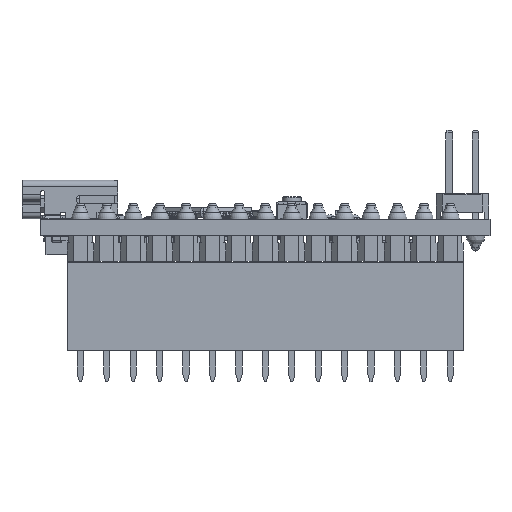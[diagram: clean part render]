
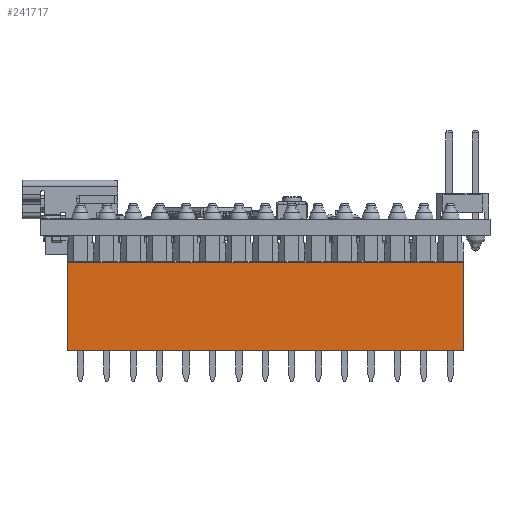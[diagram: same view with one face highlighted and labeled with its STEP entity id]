
A CAD part, front view. The second image highlights one B-rep face of the part: STEP entity #241717.
In plain terms, the highlighted planar face has unit normal (0, -1, 0) as drawn and (0, 1, 0) by its records, which use the part's own axes.
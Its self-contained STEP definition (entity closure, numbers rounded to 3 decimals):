
#240786=VERTEX_POINT('',#240787);
#240787=CARTESIAN_POINT('',(-1.27,1.27,8.5));
#240804=VERTEX_POINT('',#240805);
#240805=CARTESIAN_POINT('',(36.83,1.27,8.5));
#240811=EDGE_CURVE('',#240804,#240786,#240812,.T.);
#240812=LINE('',#240813,#240814);
#240813=CARTESIAN_POINT('',(36.83,1.27,8.5));
#240814=VECTOR('',#240815,1.0);
#240815=DIRECTION('',(-1.0,0.,0.0));
#241425=EDGE_CURVE('',#240786,#241426,#241428,.F.);
#241426=VERTEX_POINT('',#241427);
#241427=CARTESIAN_POINT('',(-1.27,1.27,0.0));
#241428=LINE('',#241429,#241430);
#241429=CARTESIAN_POINT('',(-1.27,1.27,0.0));
#241430=VECTOR('',#241431,1.0);
#241431=DIRECTION('',(0.,0.,1.0));
#241491=VERTEX_POINT('',#241492);
#241492=CARTESIAN_POINT('',(36.83,1.27,0.0));
#241498=EDGE_CURVE('',#241491,#240804,#241499,.T.);
#241499=LINE('',#241500,#241501);
#241500=CARTESIAN_POINT('',(36.83,1.27,0.0));
#241501=VECTOR('',#241502,1.0);
#241502=DIRECTION('',(0.,0.,1.0));
#241717=ADVANCED_FACE('',(#241718),#241729,.T.);
#241718=FACE_BOUND('',#241719,.T.);
#241719=EDGE_LOOP('',(#241720,#241721,#241722,#241723));
#241720=ORIENTED_EDGE('',*,*,#241425,.F.);
#241721=ORIENTED_EDGE('',*,*,#240811,.F.);
#241722=ORIENTED_EDGE('',*,*,#241498,.F.);
#241723=ORIENTED_EDGE('',*,*,#241724,.T.);
#241724=EDGE_CURVE('',#241491,#241426,#241725,.T.);
#241725=LINE('',#241726,#241727);
#241726=CARTESIAN_POINT('',(36.83,1.27,0.0));
#241727=VECTOR('',#241728,1.0);
#241728=DIRECTION('',(-1.0,0.,0.0));
#241729=PLANE('',#241730);
#241730=AXIS2_PLACEMENT_3D('',#241731,#241732,#241733);
#241731=CARTESIAN_POINT('',(1.27,1.27,0.0));
#241732=DIRECTION('',(0.0,1.0,0.0));
#241733=DIRECTION('',(-1.0,0.0,0.0));
